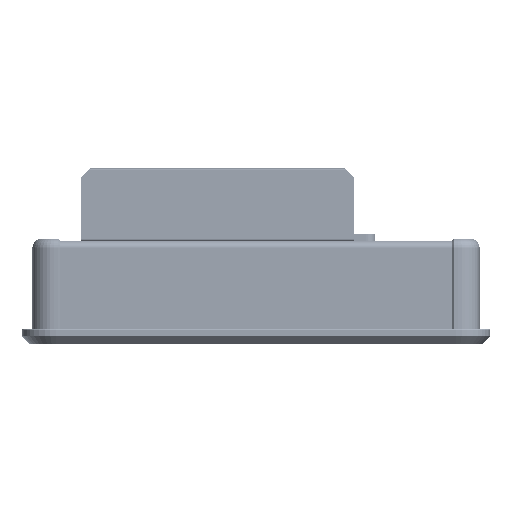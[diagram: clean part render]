
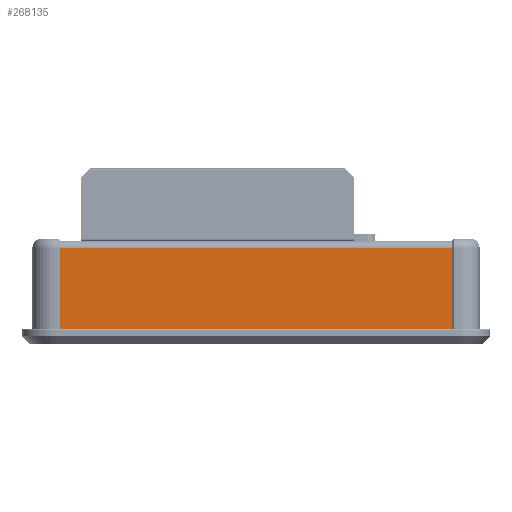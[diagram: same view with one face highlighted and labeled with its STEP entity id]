
A CAD part, left-side view. The second image highlights one B-rep face of the part: STEP entity #268135.
In plain terms, the highlighted planar face has unit normal (-1, 0, 0).
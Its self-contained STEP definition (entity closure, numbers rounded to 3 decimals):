
#10184=FACE_OUTER_BOUND('',#24080,.T.);
#24080=EDGE_LOOP('',(#168930,#168931,#168932,#168933));
#44928=LINE('',#370232,#74199);
#44958=LINE('',#370306,#74229);
#44959=LINE('',#370308,#74230);
#44960=LINE('',#370309,#74231);
#74199=VECTOR('',#303237,10.);
#74229=VECTOR('',#303305,10.);
#74230=VECTOR('',#303306,10.);
#74231=VECTOR('',#303307,10.);
#103583=VERTEX_POINT('',#370229);
#103584=VERTEX_POINT('',#370231);
#103609=VERTEX_POINT('',#370305);
#103610=VERTEX_POINT('',#370307);
#129186=EDGE_CURVE('',#103583,#103584,#44928,.T.);
#129224=EDGE_CURVE('',#103609,#103584,#44958,.T.);
#129225=EDGE_CURVE('',#103583,#103610,#44959,.T.);
#129226=EDGE_CURVE('',#103610,#103609,#44960,.T.);
#168930=ORIENTED_EDGE('',*,*,#129224,.T.);
#168931=ORIENTED_EDGE('',*,*,#129186,.F.);
#168932=ORIENTED_EDGE('',*,*,#129225,.T.);
#168933=ORIENTED_EDGE('',*,*,#129226,.T.);
#245187=PLANE('',#282901);
#268135=ADVANCED_FACE('',(#10184),#245187,.T.);
#282901=AXIS2_PLACEMENT_3D('',#370304,#303303,#303304);
#303237=DIRECTION('',(0.,1.,0.));
#303303=DIRECTION('center_axis',(-1.,0.,0.));
#303304=DIRECTION('ref_axis',(0.,0.,
-1.));
#303305=DIRECTION('',(0.,0.,-1.));
#303306=DIRECTION('',(0.,0.,1.));
#303307=DIRECTION('',(0.,1.,0.));
#370229=CARTESIAN_POINT('',(-195.45,-107.9,5.6));
#370231=CARTESIAN_POINT('',(-195.45,107.9,5.6));
#370232=CARTESIAN_POINT('',(-195.45,-118.486,5.6));
#370304=CARTESIAN_POINT('Origin',(-195.45,0.,
30.452));
#370305=CARTESIAN_POINT('',(-195.45,107.9,50.6));
#370306=CARTESIAN_POINT('',(-195.45,107.9,18.026));
#370307=CARTESIAN_POINT('',(-195.45,-107.9,50.6));
#370308=CARTESIAN_POINT('',(-195.45,-107.9,18.026));
#370309=CARTESIAN_POINT('',(-195.45,0.,50.6));
